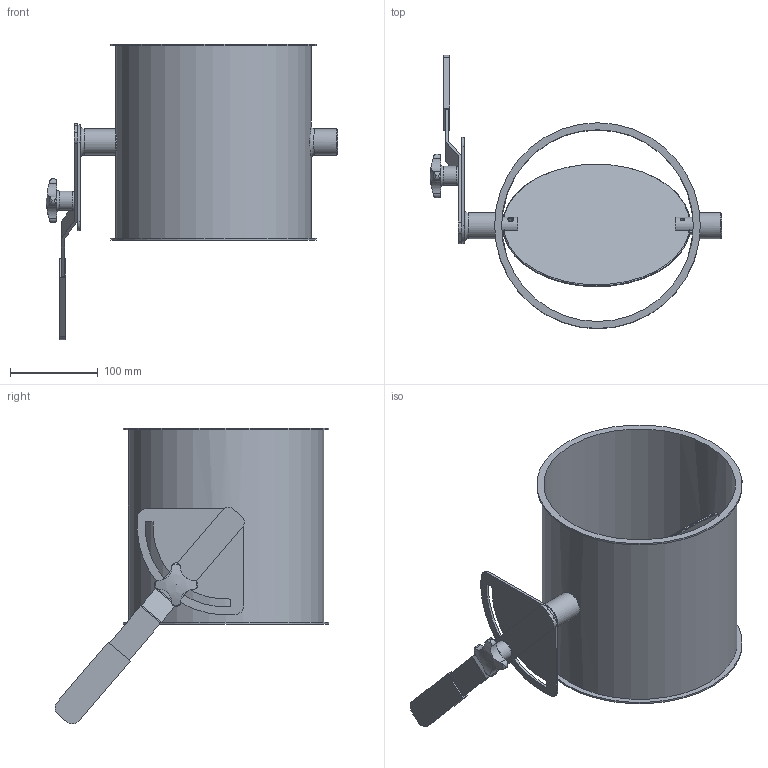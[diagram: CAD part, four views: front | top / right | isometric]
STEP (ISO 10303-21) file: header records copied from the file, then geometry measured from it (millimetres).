
FILE_DESCRIPTION((''),'2;1');
FILE_NAME('U:\Wolfgang\Marcel-3D\fertig\Kapitel 8\2221075.stp','2012-01-13T11:12:05',('iwienholt'),(''),'Autodesk Inventor 2010','Autodesk Inventor 2010','');
FILE_SCHEMA(('AUTOMOTIVE_DESIGN { 1 0 10303 214 1 1 1 1 }'));
Length unit declared in the file: millimetre
Products named in the file (7): 2221075; Bolzen D20; ganter_din_6335-ku-50-m10-k; Griff D20; Scheibe224; Umstellsegment D20; 2221075-1
Assembly tree (6 placements, depth 2):
  2221075
    Bolzen D20
    ganter_din_6335-ku-50-m10-k
    Griff D20
    Scheibe224
    Umstellsegment D20
    2221075-1
Bounding box: 333 x 312.75 x 338.07 mm (x, y, z)
Volume: 598245.8 mm3; surface area: 474489.9 mm2
Topology: 6 solids, 6 shells, 119 faces, 304 edges, 206 vertices
Faces by surface type: plane 51, cylinder 46, torus 9, bspline 7, cone 5, sphere 1
Full cylindrical faces by diameter (mm): 6 x4, 8 x1, 9 x1, 10 x2, 16 x1, 20 x6, 22 x1, 30 x3, 215 x1, 219 x1, 223 x1, 235 x2
Entity records: 4519 total; most frequent: CARTESIAN_POINT 1654, DIRECTION 566, ORIENTED_EDGE 492, EDGE_CURVE 246, AXIS2_PLACEMENT_3D 240, EDGE_LOOP 188, VERTEX_POINT 186, FACE_OUTER_BOUND 119
